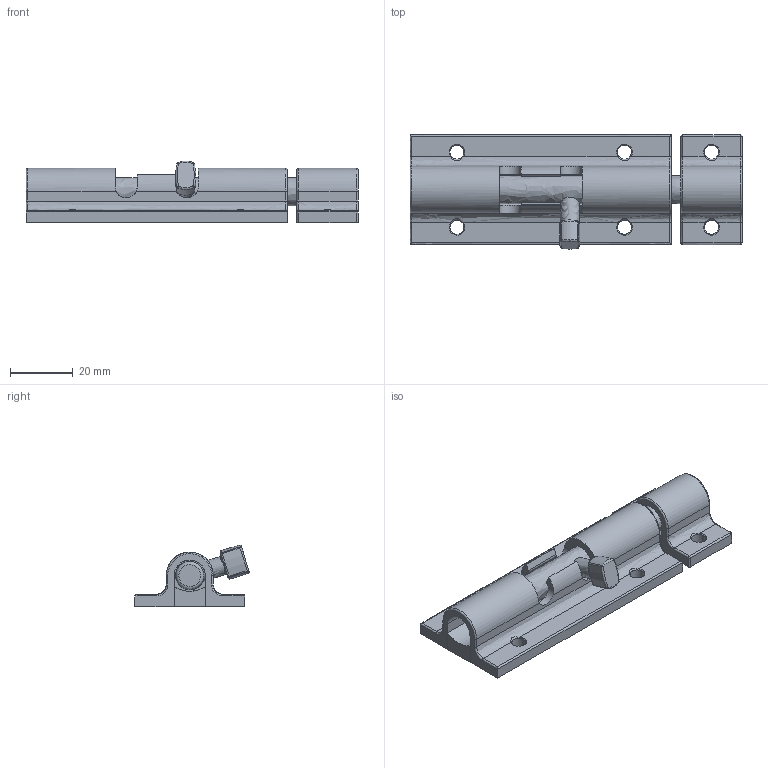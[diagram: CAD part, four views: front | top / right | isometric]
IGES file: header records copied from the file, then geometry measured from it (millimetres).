
Global section: file name: DR_ODC5-4S; native system: Autodesk Inventor 2015; preprocessor: unknown; author: Administrator; date: 20170901.092507; units: millimetre
Bounding box: 106.04 x 36.46 x 19.77 mm (x, y, z)
Volume: 29337.5 mm3; surface area: 19531.5 mm2
Topology: 5 solids, 5 shells, 155 faces, 393 edges, 241 vertices
Faces by surface type: bspline 155
